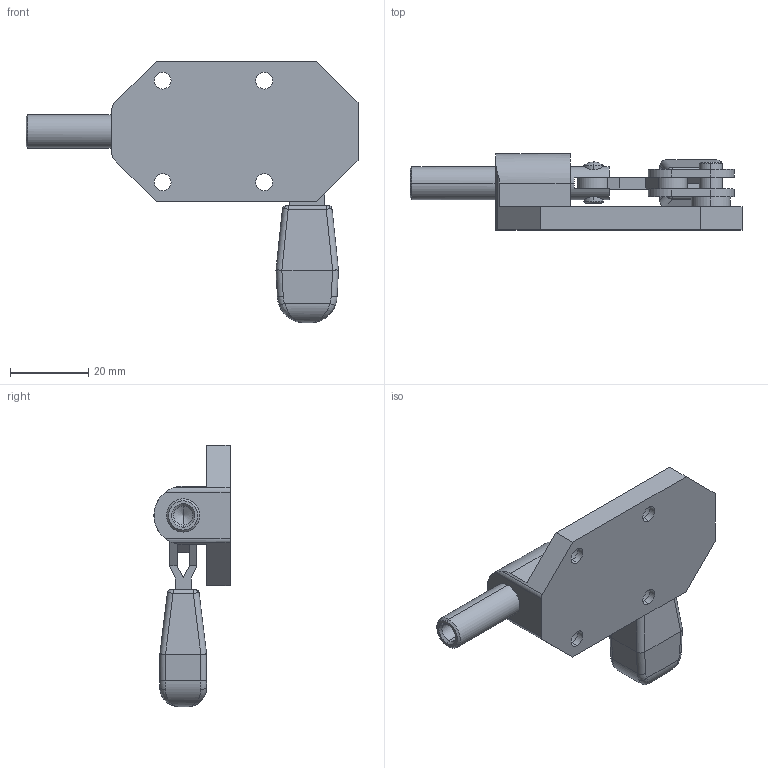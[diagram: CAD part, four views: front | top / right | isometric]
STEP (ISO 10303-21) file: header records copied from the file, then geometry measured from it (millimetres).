
FILE_DESCRIPTION (( 'STEP AP214' ), '1' );
FILE_NAME ('844-70-ASD.step', '2024-04-12T08:42:40', ( '' ), ( '' ), 'SwSTEP 2.0', 'SolidWorks 2022', '' );
FILE_SCHEMA (( 'AUTOMOTIVE_DESIGN' ));
Length unit declared in the file: millimetre
Products named in the file (5): WB844-70_Stange^WB844-70; 844-70-ASD; WB844-70_Halter^WB844-70; WB844-70_Hebel^WB844-70; WB844-70_Distanz^WB844-70
Assembly tree (4 placements, depth 2):
  844-70-ASD
    WB844-70_Halter^WB844-70
    WB844-70_Hebel^WB844-70
    WB844-70_Distanz^WB844-70
    WB844-70_Stange^WB844-70
Bounding box: 85 x 19.5 x 67 mm (x, y, z)
Volume: 23161.1 mm3; surface area: 12721.1 mm2
Topology: 4 solids, 4 shells, 169 faces, 425 edges, 268 vertices
Faces by surface type: cylinder 78, plane 64, bspline 13, cone 8, torus 6
Entity records: 7280 total; most frequent: CARTESIAN_POINT 1628, DIRECTION 858, ORIENTED_EDGE 834, EDGE_CURVE 417, AXIS2_PLACEMENT_3D 322, VERTEX_POINT 268, LINE 214, VECTOR 214
